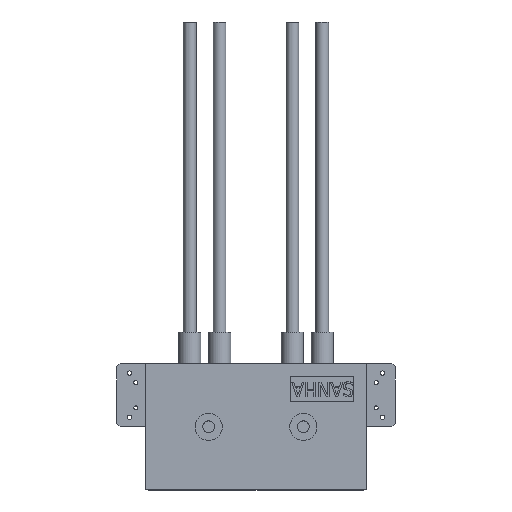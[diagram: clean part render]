
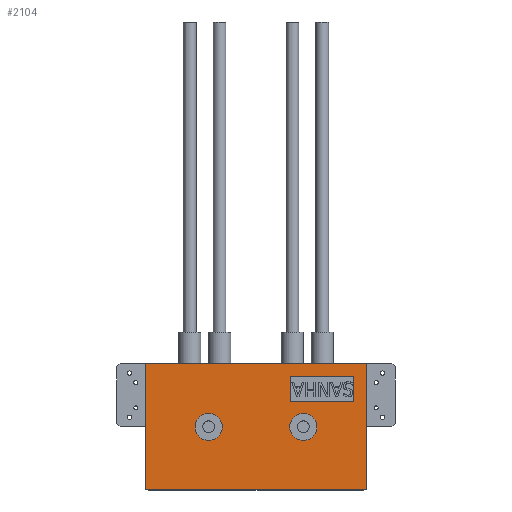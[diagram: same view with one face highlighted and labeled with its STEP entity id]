
A CAD part, top view. The second image highlights one B-rep face of the part: STEP entity #2104.
In plain terms, the highlighted planar face has unit normal (0, 0, 1) as drawn and (1, 0, 0) by its records, which use the part's own axes.
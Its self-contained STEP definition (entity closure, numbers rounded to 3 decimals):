
#118=LINE('',#2918,#320);
#121=LINE('',#2924,#323);
#126=LINE('',#2941,#328);
#291=LINE('',#3572,#493);
#294=LINE('',#3577,#496);
#296=LINE('',#3581,#498);
#298=LINE('',#3584,#500);
#300=LINE('',#3632,#502);
#320=VECTOR('',#2411,10.);
#323=VECTOR('',#2416,10.);
#328=VECTOR('',#2431,10.);
#493=VECTOR('',#2736,10.);
#496=VECTOR('',#2741,10.);
#498=VECTOR('',#2745,10.);
#500=VECTOR('',#2749,10.);
#502=VECTOR('',#2815,10.);
#588=PLANE('',#2327);
#632=FACE_BOUND('',#920,.T.);
#633=FACE_BOUND('',#921,.T.);
#634=FACE_BOUND('',#922,.T.);
#756=FACE_OUTER_BOUND('',#919,.T.);
#919=EDGE_LOOP('',(#1951,#1952,#1953,#1954));
#920=EDGE_LOOP('',(#1955,#1956,#1957,#1958));
#921=EDGE_LOOP('',(#1959));
#922=EDGE_LOOP('',(#1960));
#956=CIRCLE('',#2311,21.5);
#959=CIRCLE('',#2316,21.5);
#987=VERTEX_POINT('',#2914);
#989=VERTEX_POINT('',#2917);
#991=VERTEX_POINT('',#2923);
#998=VERTEX_POINT('',#2938);
#1137=VERTEX_POINT('',#3570);
#1138=VERTEX_POINT('',#3571);
#1139=VERTEX_POINT('',#3576);
#1140=VERTEX_POINT('',#3580);
#1148=VERTEX_POINT('',#3609);
#1151=VERTEX_POINT('',#3617);
#1186=EDGE_CURVE('',#989,#987,#118,.T.);
#1189=EDGE_CURVE('',#991,#989,#121,.T.);
#1198=EDGE_CURVE('',#998,#991,#126,.T.);
#1401=EDGE_CURVE('',#1137,#1138,#291,.T.);
#1404=EDGE_CURVE('',#1139,#1137,#294,.T.);
#1406=EDGE_CURVE('',#1140,#1139,#296,.T.);
#1408=EDGE_CURVE('',#1138,#1140,#298,.T.);
#1416=EDGE_CURVE('',#1148,#1148,#956,.T.);
#1419=EDGE_CURVE('',#1151,#1151,#959,.T.);
#1424=EDGE_CURVE('',#987,#998,#300,.T.);
#1951=ORIENTED_EDGE('',*,*,#1198,.T.);
#1952=ORIENTED_EDGE('',*,*,#1189,.T.);
#1953=ORIENTED_EDGE('',*,*,#1186,.T.);
#1954=ORIENTED_EDGE('',*,*,#1424,.T.);
#1955=ORIENTED_EDGE('',*,*,#1401,.T.);
#1956=ORIENTED_EDGE('',*,*,#1408,.T.);
#1957=ORIENTED_EDGE('',*,*,#1406,.T.);
#1958=ORIENTED_EDGE('',*,*,#1404,.T.);
#1959=ORIENTED_EDGE('',*,*,#1416,.T.);
#1960=ORIENTED_EDGE('',*,*,#1419,.T.);
#2104=ADVANCED_FACE('',(#756,#632,#633,#634),#588,.T.);
#2311=AXIS2_PLACEMENT_3D('',#3610,#2784,#2785);
#2316=AXIS2_PLACEMENT_3D('',#3618,#2794,#2795);
#2327=AXIS2_PLACEMENT_3D('',#3634,#2818,#2819);
#2411=DIRECTION('',(0.,1.,0.));
#2416=DIRECTION('',(0.,0.,-1.));
#2431=DIRECTION('',(0.,-1.,0.));
#2736=DIRECTION('',(0.,-1.,0.));
#2741=DIRECTION('',(0.,0.,-1.));
#2745=DIRECTION('',(0.,1.,0.));
#2749=DIRECTION('',(0.,0.,1.));
#2784=DIRECTION('center_axis',(-1.,0.,0.));
#2785=DIRECTION('ref_axis',(0.,0.,1.));
#2794=DIRECTION('center_axis',(-1.,0.,0.));
#2795=DIRECTION('ref_axis',(0.,0.,1.));
#2815=DIRECTION('',(0.,0.,1.));
#2818=DIRECTION('center_axis',(1.,0.,0.));
#2819=DIRECTION('ref_axis',(0.,0.,-1.));
#2914=CARTESIAN_POINT('',(50.,200.,-350.));
#2917=CARTESIAN_POINT('',(50.,0.,-350.));
#2918=CARTESIAN_POINT('',(50.,200.,-350.));
#2923=CARTESIAN_POINT('',(50.,0.,0.));
#2924=CARTESIAN_POINT('',(50.,0.,-350.));
#2938=CARTESIAN_POINT('',(50.,200.,0.));
#2941=CARTESIAN_POINT('',(50.,0.,0.));
#3570=CARTESIAN_POINT('',(50.,60.,-120.));
#3571=CARTESIAN_POINT('',(50.,20.,-120.));
#3572=CARTESIAN_POINT('',(50.,80.,-120.));
#3576=CARTESIAN_POINT('',(50.,60.,-20.));
#3577=CARTESIAN_POINT('',(50.,60.,-97.5));
#3580=CARTESIAN_POINT('',(50.,20.,-20.));
#3581=CARTESIAN_POINT('',(50.,60.,-20.));
#3584=CARTESIAN_POINT('',(50.,20.,-147.5));
#3609=CARTESIAN_POINT('',(50.,100.,-121.5));
#3610=CARTESIAN_POINT('Origin',(50.,100.,-100.));
#3617=CARTESIAN_POINT('',(50.,100.,-271.5));
#3618=CARTESIAN_POINT('Origin',(50.,100.,-250.));
#3632=CARTESIAN_POINT('',(50.,200.,0.));
#3634=CARTESIAN_POINT('Origin',(50.,100.,-175.));
